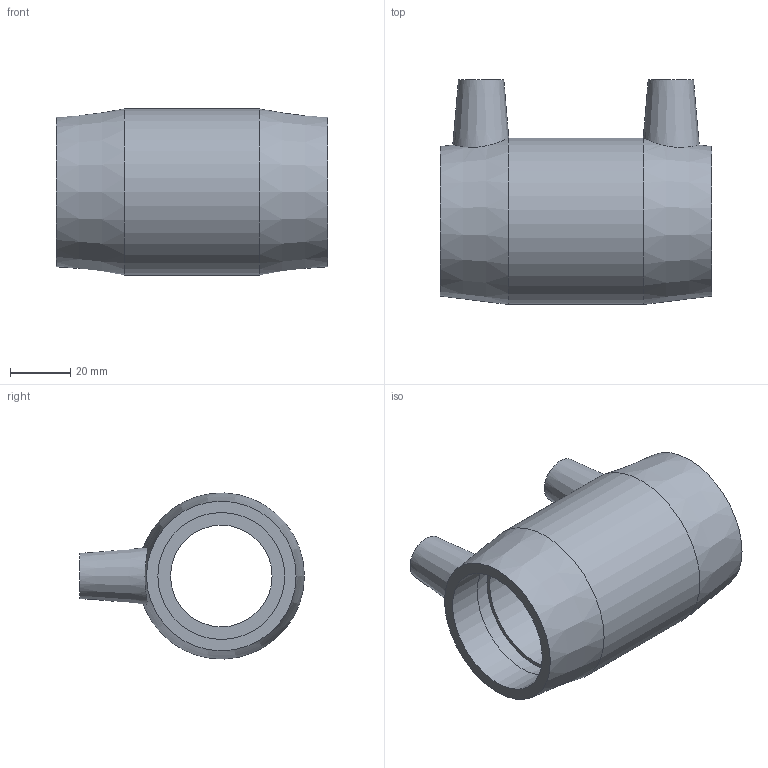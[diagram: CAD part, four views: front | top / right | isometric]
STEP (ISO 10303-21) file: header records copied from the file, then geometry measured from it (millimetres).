
FILE_DESCRIPTION(/* description */ ('PLASSON IPS COUPLER 1 1/4'''''),/* implementation_level */ '2;1');
FILE_NAME(/* name */ 'C:\Dropbox\KIMPROJECTS-Inventor 2019\99-16-3568-Processing Inch\ASTM ElectroFusion 2021\5901B\5901B004013.ipt.stp',/* time_stamp */ '2021-08-30T09:48:53+03:00',/* author */ ('KIM'),/* organization */ (''),/* preprocessor_version */ 'ST-DEVELOPER v17.2',/* originating_system */ 'Autodesk Inventor 2019',/* authorisation */ '');
FILE_SCHEMA (('AUTOMOTIVE_DESIGN { 1 0 10303 214 3 1 1 }'));
Length unit declared in the file: inch
Products named in the file (1): 5901B004013
Bounding box: 89.92 x 74.55 x 55.08 mm (x, y, z)
Volume: 87018.8 mm3; surface area: 32770.4 mm2
Topology: 1 solids, 1 shells, 30 faces, 68 edges, 48 vertices
Faces by surface type: plane 12, cylinder 10, cone 8
Full cylindrical faces by diameter (mm): 4 x2, 10 x2, 33.68 x1, 42.1 x4, 55.118 x1
Entity records: 991 total; most frequent: CARTESIAN_POINT 227, DIRECTION 166, ORIENTED_EDGE 136, AXIS2_PLACEMENT_3D 75, EDGE_CURVE 68, VERTEX_POINT 48, CIRCLE 44, EDGE_LOOP 40
